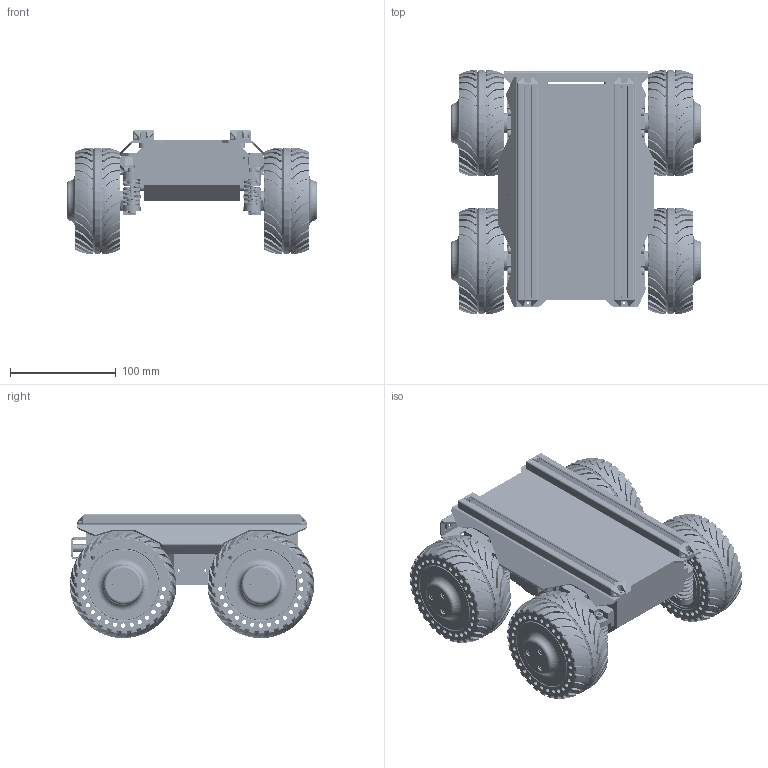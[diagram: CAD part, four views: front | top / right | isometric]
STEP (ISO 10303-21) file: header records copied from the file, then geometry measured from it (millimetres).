
FILE_DESCRIPTION(/* description */ (''),/* implementation_level */ '2;1');
FILE_NAME(/* name */ '',/* time_stamp */ '2024-07-30T19:24:51+08:00',/* author */ (''),/* organization */ (''),/* preprocessor_version */ 'ST-DEVELOPER v20',/* originating_system */ 'Autodesk Translation Framework v13.14.0.145',/* authorisation */ '');
FILE_SCHEMA (('AUTOMOTIVE_DESIGN { 1 0 10303 214 3 1 1 }'));
Products named in the file (38): DDSM210-BASE; main-base; surface; 1020铝型材200mm v2; 1020堵头B; cooler-assem; cooler-assem_1; cooler-shell; UGV Suspension (A); M4 T-Nut for 2020 extrusion; M4 T-Nut for 2020 extrusion_1; DDSM115; UGV Suspension (A)_1; M4 T-Nut for 2020 extrusion_2; M4 T-Nut for 2020 extrusion_3; DDSM115_1; UGV Suspension (A)_2; M4 T-Nut for 2020 extrusion_4; M4 T-Nut for 2020 extrusion_5; DDSM115_2; UGV Suspension (A)_3; S115-A V2; S115-B; S115-C; Document; 黑色金属杯头内六角螺丝M
4_40 v1; DIN985 M4 FIBER SOMUN; 黑色金属杯头内六角螺丝M
4_5 v1; M4 T-Nut for 2020 extrusion_6; M4 T-Nut for 2020 extrusion_7; M4 T-Nut for 2020 extrusion_1_1; 黑色金属沉头螺丝 KM2.5*8; DDSM115_3; M0601C; BM.SJ.AA00037.01; ÖÎ¾ßÑ¹»·-20220718; M2.5-8; rib
Assembly tree (129 placements, depth 4):
  DDSM210-BASE
    main-base
    1020铝型材200mm v2  x2
    surface
    1020堵头B  x4
    cooler-assem
      cooler-shell
    cooler-assem_1
      cooler-shell
    UGV Suspension (A)
      S115-A V2
      S115-B
      S115-C
      Document
      黑色金属杯头内六角螺丝M
4_40 v1  x2
      DIN985 M4 FIBER SOMUN  x2
      黑色金属杯头内六角螺丝M
4_5 v1  x2
      M4 T-Nut for 2020 extrusion
        M4 T-Nut for 2020 extrusion_1_1
      M4 T-Nut for 2020 extrusion_1
        M4 T-Nut for 2020 extrusion_1_1
      黑色金属沉头螺丝 KM2.5*8  x7
      DDSM115
        M0601C
        ÖÎ¾ßÑ¹»·-20220718
        M2.5-8  x3
        BM.SJ.AA00037.01
    UGV Suspension (A)_1
      S115-A V2
      S115-B
      S115-C
      Document
      黑色金属杯头内六角螺丝M
4_40 v1  x2
      DIN985 M4 FIBER SOMUN  x2
      黑色金属杯头内六角螺丝M
4_5 v1  x2
      M4 T-Nut for 2020 extrusion_2
        M4 T-Nut for 2020 extrusion_1_1
      M4 T-Nut for 2020 extrusion_3
        M4 T-Nut for 2020 extrusion_1_1
      黑色金属沉头螺丝 KM2.5*8  x7
      DDSM115_1
        M0601C
        ÖÎ¾ßÑ¹»·-20220718
        M2.5-8  x3
        BM.SJ.AA00037.01
    UGV Suspension (A)_2
      S115-A V2
      S115-B
      S115-C
      Document
      黑色金属杯头内六角螺丝M
4_40 v1  x2
      DIN985 M4 FIBER SOMUN  x2
      黑色金属杯头内六角螺丝M
4_5 v1  x2
      M4 T-Nut for 2020 extrusion_4
        M4 T-Nut for 2020 extrusion_1_1
      M4 T-Nut for 2020 extrusion_5
        M4 T-Nut for 2020 extrusion_1_1
      黑色金属沉头螺丝 KM2.5*8  x7
      DDSM115_2
        M0601C
Bounding box: 236.7 x 230.7 x 117.35 mm (x, y, z)
Volume: 1669119.5 mm3; surface area: 636571.3 mm2
Topology: 148 solids, 184 shells, 12415 faces, 32442 edges, 20778 vertices
Faces by surface type: bspline 4369, plane 3400, cylinder 2098, torus 1360, cone 708, sphere 480
Full cylindrical faces by diameter (mm): 1.567 x12, 2.05 x44, 2.2 x20, 2.4 x4, 2.5 x52, 2.8 x12, 3 x8, 3.1 x8, 3.2 x4, 3.3 x24, 3.4 x4, 3.46 x6, 3.678 x28, 4 x180, 4.1 x4, 4.109 x40, 4.2 x12, 4.6 x12, 4.8 x4, 5 x4, 6 x12, 6.4 x8, 6.9 x16, 7 x2, 7.22 x16, 8.4 x16, 10 x4, 11.6 x8, 12 x8, 18.5 x4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
Entity records: 240269 total; most frequent: CARTESIAN_POINT 160997, ORIENTED_EDGE 18560, DIRECTION 12282, EDGE_CURVE 9282, VERTEX_POINT 6028, AXIS2_PLACEMENT_3D 4158, LINE 3966, VECTOR 3966
